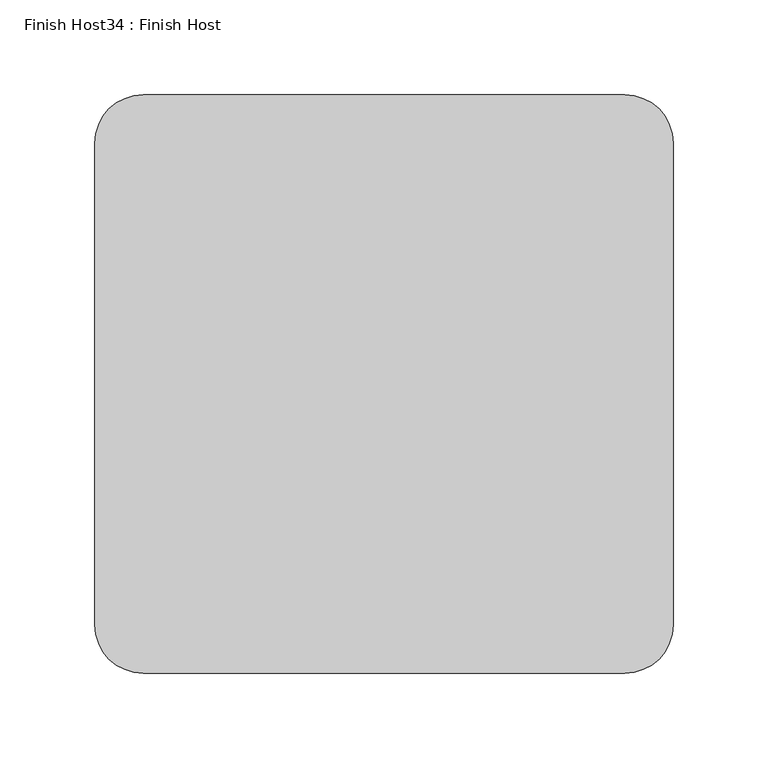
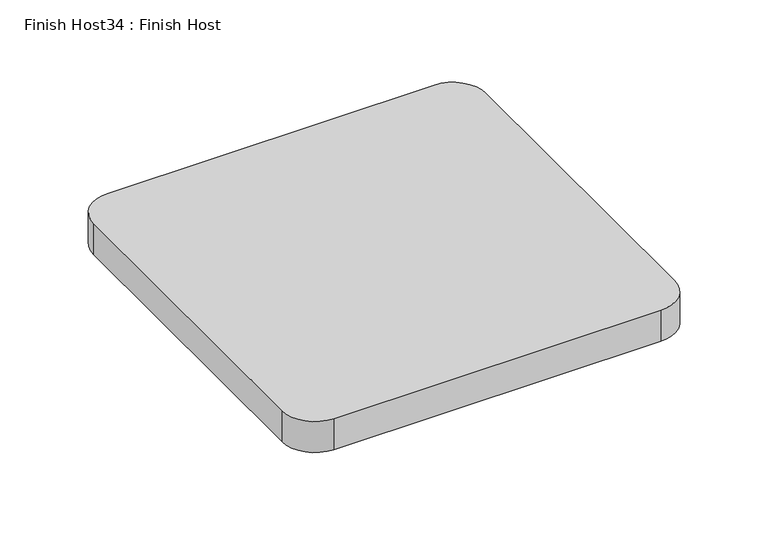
"""IFC4 building model written with IfcOpenShell, lengths in millimetres: proxy geometry, Finish Host34 : Finish Host."""

from ifc_helpers import new_model, si_unit, point, frame_2d, origin, origin_with_axes, place, context, project, spatial, polyline, circle_curve, trimmed, segment, composite_curve, outline, extrude, source, transform, mapped, element, save


def finish_host34_finish_host_d116e8a5(model_context):
    return source(origin(), model_context, "Body", "SweptSolid", [
        extrude(outline(composite_curve([segment(polyline([(4568.3649374, 1108.9667263), (4568.3649374, 1362.9667263)]), True, "CONTINUOUS"), segment(trimmed(circle_curve(frame_2d((4593.7649374, 1362.9667263)), 25.4), [point((4568.3649374, 1362.9667263))], [point((4593.7649374, 1388.3667263))], False, "CARTESIAN"), True, "CONTINUOUS"), segment(polyline([(4593.7649374, 1388.3667263), (4847.7649374, 1388.3667263)]), True, "CONTINUOUS"), segment(trimmed(circle_curve(frame_2d((4847.7649374, 1362.9667263)), 25.4), [point((4847.7649374, 1388.3667263))], [point((4873.1649374, 1362.9667263))], False, "CARTESIAN"), True, "CONTINUOUS"), segment(polyline([(4873.1649374, 1362.9667263), (4873.1649374, 1108.9667263)]), True, "CONTINUOUS"), segment(trimmed(circle_curve(frame_2d((4847.7649374, 1108.9667263)), 25.4), [point((4873.1649374, 1108.9667263))], [point((4847.7649374, 1083.5667263))], False, "CARTESIAN"), True, "CONTINUOUS"), segment(polyline([(4847.7649374, 1083.5667263), (4593.7649374, 1083.5667263)]), True, "CONTINUOUS"), segment(trimmed(circle_curve(frame_2d((4593.7649374, 1108.9667263)), 25.4), [point((4593.7649374, 1083.5667263))], [point((4568.3649374, 1108.9667263))], False, "CARTESIAN"), True, "CONTINUOUS")], self_intersect=False)), origin_with_axes(), (0.0, 0.0, 1.0), 25.4),
    ])


if __name__ == "__main__":
    model = new_model("IFC4")
    model_context = context("Model", 3, world=origin())
    ifc_project = project(units=[si_unit("LENGTHUNIT", "METRE", prefix="MILLI")], contexts=[model_context])
    site = spatial("IfcSite", under=ifc_project)
    building = spatial("IfcBuilding", under=site)
    placement = place(None, origin())
    finish_host34_finish_host_shape = finish_host34_finish_host_d116e8a5(model_context)
    element("IfcBuildingElementProxy", 1, Name="Finish Host34 : Finish Host", ObjectType="Finish Host34 : Finish Host", at=placement, inside=building, context=model_context, shape_type="MappedRepresentation", body=[
        mapped(finish_host34_finish_host_shape, transform((0.0, 0.0, 0.0), x_axis=(1.0, 0.0, 0.0), y_axis=(0.0, 1.0, 0.0), z_axis=(0.0, 0.0, 1.0))),
    ])
    save(model, "model.ifc")
